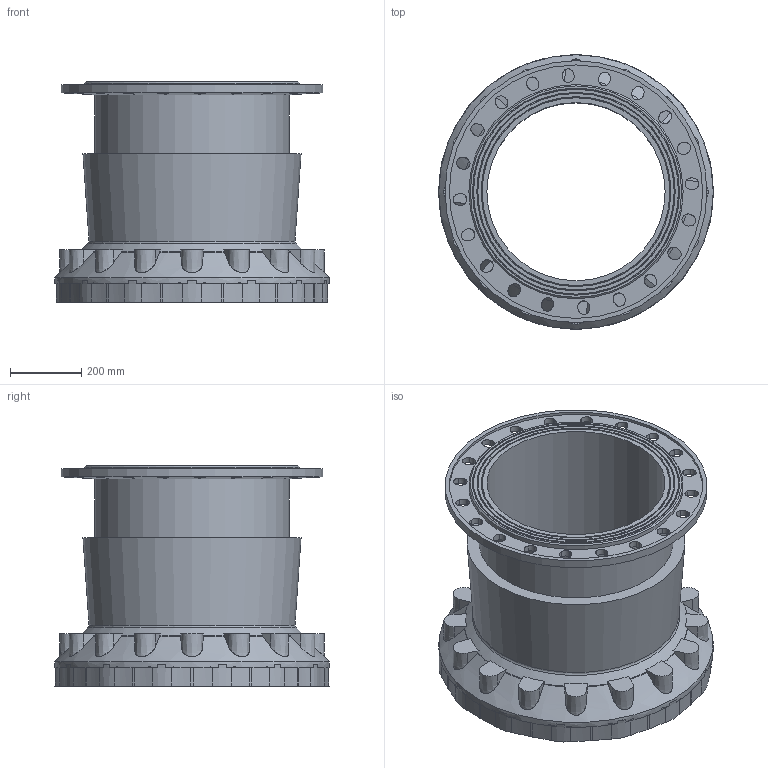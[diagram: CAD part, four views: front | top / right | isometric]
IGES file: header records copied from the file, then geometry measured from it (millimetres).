
Start section: SolidWorks IGES file using analytic representation for surfaces
Global section: file name: \\avksan2\techshare\PBM outline export from Enovia\O_633_00_DN500_AA0.igs; native system: SolidWorks 2012; preprocessor: SolidWorks 2012; author: pbm; date: 180703.075222; units: millimetre
Bounding box: 770 x 770.98 x 619.23 mm (x, y, z)
Surface area: 3128176.7 mm2 (no closed solid volume)
Topology: 0 solids, 0 shells, 383 faces, 2220 edges, 2193 vertices
Faces by surface type: revolution 291, bspline 92
